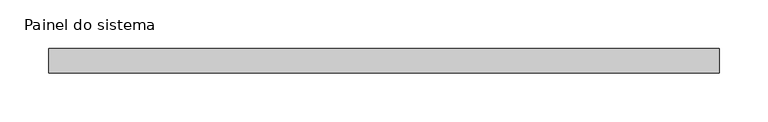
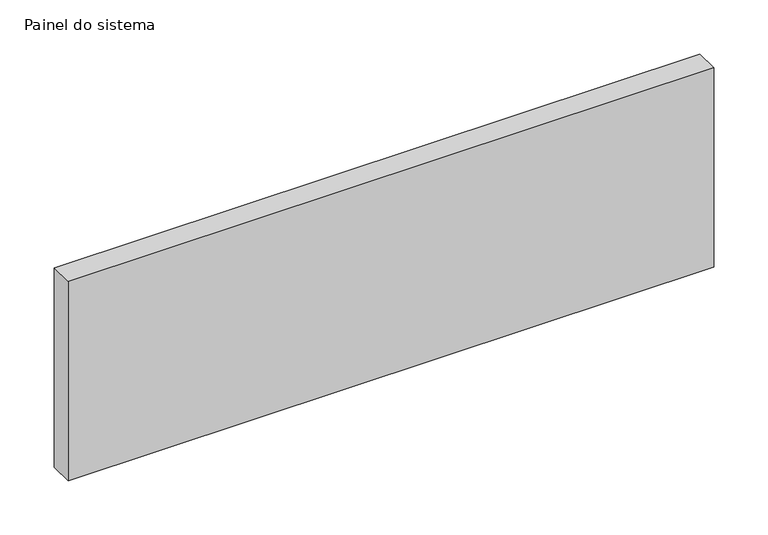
"""IFC4 building model written with IfcOpenShell, lengths in millimetres: plate geometry, Painel do sistema : Envidraçado."""

from ifc_helpers import new_model, si_unit, origin, origin_with_axes, place, context, project, spatial, polyline, outline, extrude, source, transform, mapped, element, save


def painel_do_sistema_6c03b59b(model_context):
    return source(origin(), model_context, "Body", "SweptSolid", [
        extrude(outline(polyline([(342.525, 24.5), (-342.525, 24.5), (-342.525, 49.5), (342.525, 49.5), (342.525, 24.5)])), origin_with_axes(), (0.0, 0.0, 1.0), 223.6217085),
    ])


if __name__ == "__main__":
    model = new_model("IFC4")
    model_context = context("Model", 3, world=origin())
    ifc_project = project(units=[si_unit("LENGTHUNIT", "METRE", prefix="MILLI")], contexts=[model_context])
    site = spatial("IfcSite", under=ifc_project)
    building = spatial("IfcBuilding", under=site)
    placement = place(None, origin())
    painel_do_sistema_shape = painel_do_sistema_6c03b59b(model_context)
    element("IfcPlate", 1, ObjectType="Painel do sistema : Envidraçado", at=placement, inside=building, context=model_context, shape_type="MappedRepresentation", body=[
        mapped(painel_do_sistema_shape, transform((0.0, 0.0, 0.0), x_axis=(1.0, 0.0, 0.0), y_axis=(0.0, 1.0, 0.0), z_axis=(0.0, 0.0, 1.0))),
    ])
    save(model, "model.ifc")
